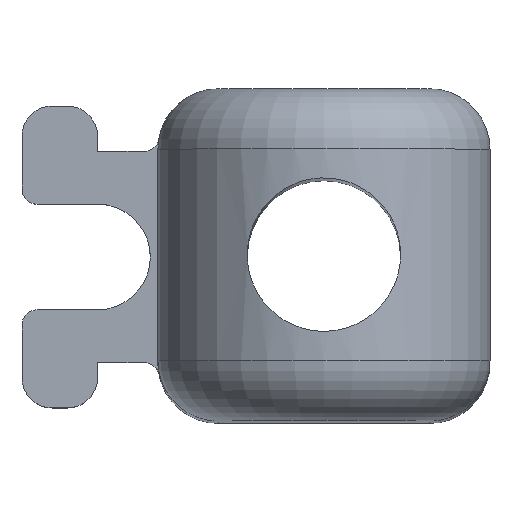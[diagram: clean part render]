
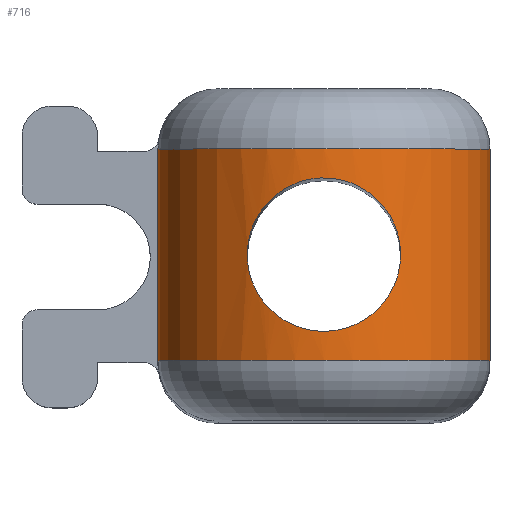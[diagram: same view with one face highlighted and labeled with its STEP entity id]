
A CAD part, top view. The second image highlights one B-rep face of the part: STEP entity #716.
In plain terms, the highlighted cylindrical face has radius 11 mm (diameter 22 mm), a partial arc.
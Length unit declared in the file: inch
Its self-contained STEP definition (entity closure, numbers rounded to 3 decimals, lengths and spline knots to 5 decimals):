
#39=FACE_BOUND('',#86,.T.);
#42=FACE_OUTER_BOUND('',#85,.T.);
#85=EDGE_LOOP('',(#482,#483,#484,#485));
#86=EDGE_LOOP('',(#486));
#129=B_SPLINE_CURVE_WITH_KNOTS('',3,(#1107,#1108,#1109,#1110,#1111,#1112,
#1113,#1114,#1115,#1116,#1117,#1118,#1119,#1120,#1121,#1122,#1123,#1124,
#1125,#1126,#1127,#1128,#1129,#1130,#1131,#1132,#1133,#1134,#1135,#1136,
#1137,#1138,#1139,#1140),.UNSPECIFIED.,.T.,.F.,(4,2,2,2,2,2,2,2,2,2,2,2,
2,2,2,2,4),(0.,0.19481,0.38962,0.58405,0.77849,
0.97293,1.16737,1.36217,1.55698,1.75179,
1.9466,2.14103,2.33547,2.52991,2.72435,
2.91915,3.11396),.UNSPECIFIED.);
#131=LINE('',#1146,#194);
#132=LINE('',#1149,#195);
#194=VECTOR('',#871,0.55118);
#195=VECTOR('',#874,0.55118);
#257=CIRCLE('',#775,0.43307);
#258=CIRCLE('',#776,0.43307);
#302=VERTEX_POINT('',#1105);
#303=VERTEX_POINT('',#1142);
#304=VERTEX_POINT('',#1143);
#305=VERTEX_POINT('',#1145);
#306=VERTEX_POINT('',#1147);
#371=EDGE_CURVE('',#302,#302,#129,.T.);
#372=EDGE_CURVE('',#303,#304,#257,.T.);
#373=EDGE_CURVE('',#303,#305,#131,.T.);
#374=EDGE_CURVE('',#306,#305,#258,.T.);
#375=EDGE_CURVE('',#304,#306,#132,.T.);
#482=ORIENTED_EDGE('',*,*,#372,.F.);
#483=ORIENTED_EDGE('',*,*,#373,.T.);
#484=ORIENTED_EDGE('',*,*,#374,.F.);
#485=ORIENTED_EDGE('',*,*,#375,.F.);
#486=ORIENTED_EDGE('',*,*,#371,.T.);
#697=CYLINDRICAL_SURFACE('',#774,0.43307);
#716=ADVANCED_FACE('',(#42,#39),#697,.T.);
#774=AXIS2_PLACEMENT_3D('',#1141,#867,#868);
#775=AXIS2_PLACEMENT_3D('',#1144,#869,#870);
#776=AXIS2_PLACEMENT_3D('',#1148,#872,#873);
#867=DIRECTION('center_axis',(0.,1.,0.));
#868=DIRECTION('ref_axis',(-1.,0.,0.));
#869=DIRECTION('center_axis',(0.,-1.,0.));
#870=DIRECTION('ref_axis',(0.,0.,1.));
#871=DIRECTION('',(0.,1.,0.));
#872=DIRECTION('center_axis',(0.,1.,0.));
#873=DIRECTION('ref_axis',(0.,0.,1.));
#874=DIRECTION('',(0.,1.,0.));
#1105=CARTESIAN_POINT('',(0.2,0.,4.28176));
#1107=CARTESIAN_POINT('Ctrl Pts',(0.2,0.,
4.28176));
#1108=CARTESIAN_POINT('Ctrl Pts',(0.2,-0.02557,
4.28176));
#1109=CARTESIAN_POINT('Ctrl Pts',(0.19481,-0.05251,
4.28458));
#1110=CARTESIAN_POINT('Ctrl Pts',(0.1743,-0.10163,
4.29425));
#1111=CARTESIAN_POINT('Ctrl Pts',(0.15898,-0.12386,
4.3009));
#1112=CARTESIAN_POINT('Ctrl Pts',(0.12389,-0.15895,
4.31302));
#1113=CARTESIAN_POINT('Ctrl Pts',(0.10166,-0.17429,
4.31935));
#1114=CARTESIAN_POINT('Ctrl Pts',(0.05248,-0.19482,
4.32824));
#1115=CARTESIAN_POINT('Ctrl Pts',(0.02552,-0.2,
4.33071));
#1116=CARTESIAN_POINT('Ctrl Pts',(-0.02552,-0.2,
4.33071));
#1117=CARTESIAN_POINT('Ctrl Pts',(-0.05248,-0.19482,
4.32824));
#1118=CARTESIAN_POINT('Ctrl Pts',(-0.10166,-0.17429,
4.31935));
#1119=CARTESIAN_POINT('Ctrl Pts',(-0.12389,-0.15895,
4.31302));
#1120=CARTESIAN_POINT('Ctrl Pts',(-0.15898,-0.12386,
4.3009));
#1121=CARTESIAN_POINT('Ctrl Pts',(-0.1743,-0.10163,
4.29425));
#1122=CARTESIAN_POINT('Ctrl Pts',(-0.19481,-0.05251,
4.28458));
#1123=CARTESIAN_POINT('Ctrl Pts',(-0.2,-0.02557,
4.28176));
#1124=CARTESIAN_POINT('Ctrl Pts',(-0.2,0.02557,
4.28176));
#1125=CARTESIAN_POINT('Ctrl Pts',(-0.19481,0.05251,
4.28458));
#1126=CARTESIAN_POINT('Ctrl Pts',(-0.1743,0.10163,
4.29425));
#1127=CARTESIAN_POINT('Ctrl Pts',(-0.15898,0.12386,
4.3009));
#1128=CARTESIAN_POINT('Ctrl Pts',(-0.12389,0.15895,
4.31302));
#1129=CARTESIAN_POINT('Ctrl Pts',(-0.10166,0.17429,
4.31935));
#1130=CARTESIAN_POINT('Ctrl Pts',(-0.05248,0.19482,
4.32824));
#1131=CARTESIAN_POINT('Ctrl Pts',(-0.02552,0.2,
4.33071));
#1132=CARTESIAN_POINT('Ctrl Pts',(0.02552,0.2,4.33071));
#1133=CARTESIAN_POINT('Ctrl Pts',(0.05248,0.19482,
4.32824));
#1134=CARTESIAN_POINT('Ctrl Pts',(0.10166,0.17429,4.31935));
#1135=CARTESIAN_POINT('Ctrl Pts',(0.12389,0.15895,4.31302));
#1136=CARTESIAN_POINT('Ctrl Pts',(0.15898,0.12386,4.3009));
#1137=CARTESIAN_POINT('Ctrl Pts',(0.1743,0.10163,4.29425));
#1138=CARTESIAN_POINT('Ctrl Pts',(0.19481,0.05251,4.28458));
#1139=CARTESIAN_POINT('Ctrl Pts',(0.2,0.02557,4.28176));
#1140=CARTESIAN_POINT('Ctrl Pts',(0.2,0.,4.28176));
#1141=CARTESIAN_POINT('Origin',(0.,0.,3.89764));
#1142=CARTESIAN_POINT('',(0.43307,-0.27559,3.89764));
#1143=CARTESIAN_POINT('',(-0.43307,-0.27559,3.89764));
#1144=CARTESIAN_POINT('Origin',(0.,-0.27559,
3.89764));
#1145=CARTESIAN_POINT('',(0.43307,0.27559,3.89764));
#1146=CARTESIAN_POINT('',(0.43307,-0.27559,3.89764));
#1147=CARTESIAN_POINT('',(-0.43307,0.27559,3.89764));
#1148=CARTESIAN_POINT('Origin',(0.,0.27559,
3.89764));
#1149=CARTESIAN_POINT('',(-0.43307,-0.27559,3.89764));
